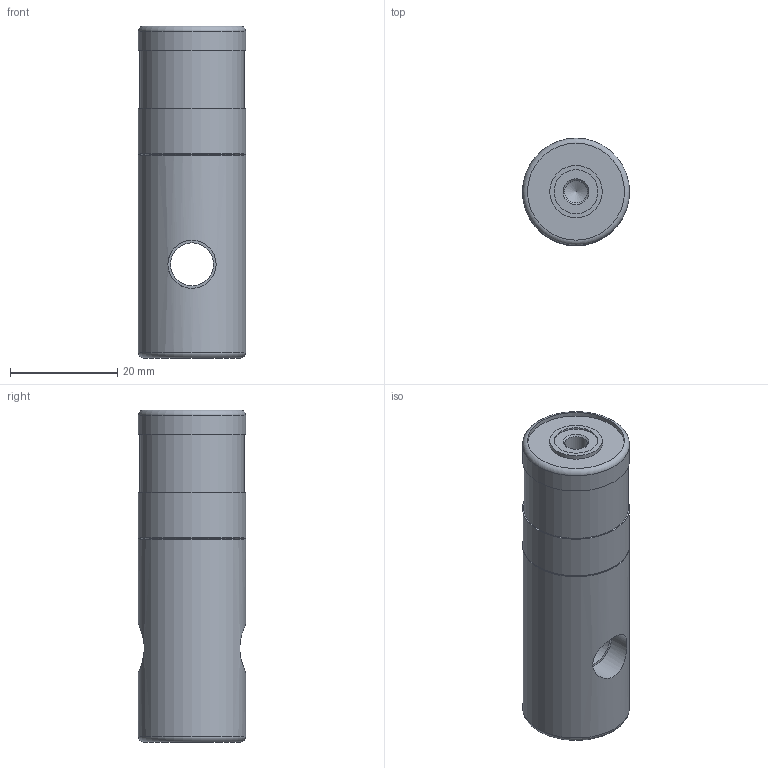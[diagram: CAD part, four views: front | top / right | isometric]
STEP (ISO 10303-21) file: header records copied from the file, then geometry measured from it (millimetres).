
FILE_DESCRIPTION(('STEP AP242'),'1');
FILE_NAME('A.6008 Feststellpatrone.stp','2026-04-23T09:35:05',(' '),(' '),'Spatial InterOp 3D',' ',' ');
FILE_SCHEMA(('AP242_MANAGED_MODEL_BASED_3D_ENGINEERING_MIM_LF {1 0 10303 442 1 1 4}'));
Length unit declared in the file: millimetre
Products named in the file (1): A.6008 Feststellpatrone
Bounding box: 20 x 20 x 62 mm (x, y, z)
Volume: 17886.2 mm3; surface area: 5080.8 mm2
Topology: 1 solids, 1 shells, 26 faces, 48 edges, 30 vertices
Faces by surface type: cylinder 12, plane 8, cone 4, torus 2
Full cylindrical faces by diameter (mm): 4.2 x2, 8 x1, 8.2 x1, 9 x2, 9.8 x1, 18.1 x1, 19.5 x1, 20 x3
Entity records: 963 total; most frequent: CARTESIAN_POINT 218, DIRECTION 102, EDGE_LOOP 52, ORIENTED_EDGE 52, AXIS2_PLACEMENT_3D 51, FACE_OUTER_BOUND 40, STYLED_ITEM 27, PRESENTATION_STYLE_ASSIGNMENT 27
